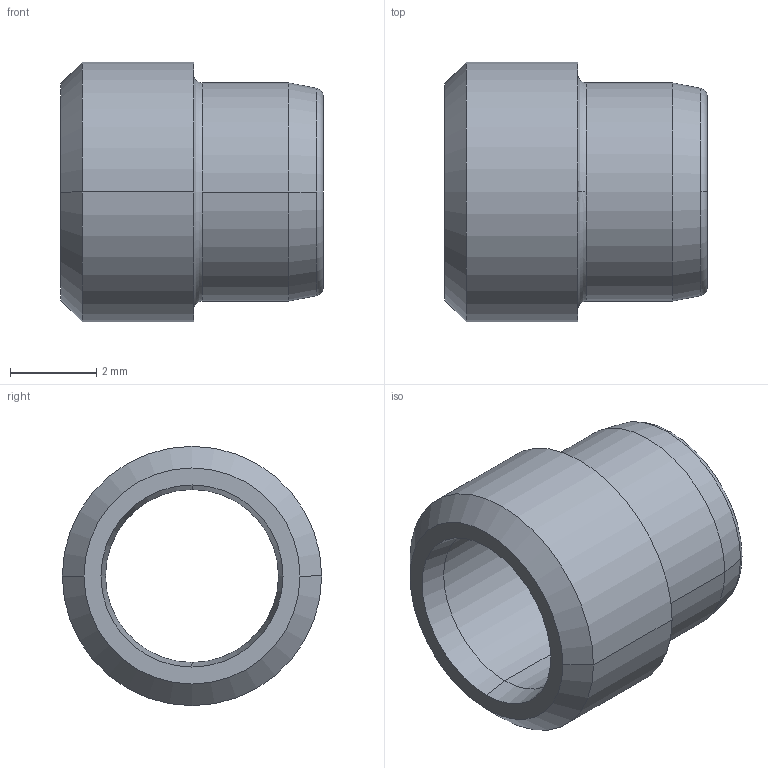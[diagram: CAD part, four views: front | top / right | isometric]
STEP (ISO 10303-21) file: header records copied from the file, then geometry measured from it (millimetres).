
FILE_DESCRIPTION((''),'2;1');
FILE_NAME('100101.stp','2006-03-06T15:04:15',('Dario Falcomer'),('CAST S.p.A.'),'AutoCAD STEP 2000i','AutoCAD 2000i',', , ');
FILE_SCHEMA(('CONFIG_CONTROL_DESIGN'));
Length unit declared in the file: millimetre
Products named in the file (2): 100101.0; 1001ESTERNO#0
Assembly tree (1 placements, depth 2):
  100101.0
    1001ESTERNO#0
Bounding box: 6.08 x 6 x 6 mm (x, y, z)
Volume: 66.1 mm3; surface area: 204.5 mm2
Topology: 1 solids, 1 shells, 26 faces, 61 edges, 39 vertices
Faces by surface type: cone 8, bspline 6, cylinder 6, plane 4, torus 2
Entity records: 1125 total; most frequent: CARTESIAN_POINT 392, DIRECTION 152, ORIENTED_EDGE 122, AXIS2_PLACEMENT_3D 69, EDGE_CURVE 61, CIRCLE 47, VERTEX_POINT 39, EDGE_LOOP 30
